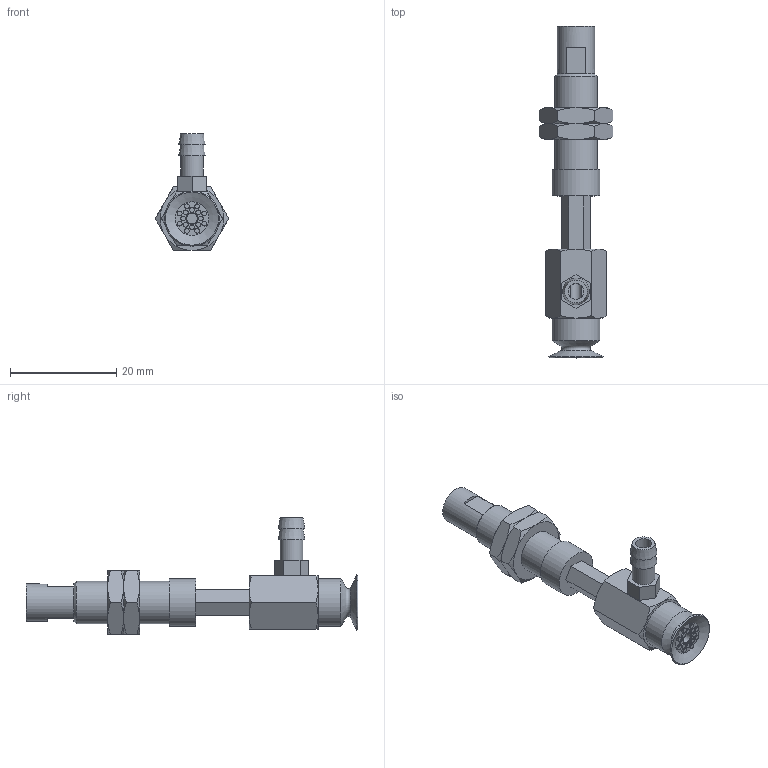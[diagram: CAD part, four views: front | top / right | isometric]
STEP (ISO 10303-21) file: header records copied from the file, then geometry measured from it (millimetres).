
FILE_DESCRIPTION(('STEP AP203'),'1');
FILE_NAME('-T.stp','2025-03-13T02:51:23',(' '),(' '),'Spatial InterOp 3D',' ',' ');
FILE_SCHEMA(('CONFIG_CONTROL_DESIGN'));
Length unit declared in the file: millimetre
Products named in the file (7): BNABPAYH-10A-10-※-T; NAPATH-10A-10--M; NAPATH-10A-10--F; Nut-10A-S; CONNECTOR-10A-10-PA; CONNECTOR-10A-3-T-PA; BPAG-10A-※
Assembly tree (7 placements, depth 2):
  BNABPAYH-10A-10-※-T
    NAPATH-10A-10--M
    NAPATH-10A-10--F
    Nut-10A-S  x2
    CONNECTOR-10A-10-PA
    CONNECTOR-10A-3-T-PA
    BPAG-10A-※
Bounding box: 13.86 x 62.5 x 22 mm (x, y, z)
Volume: 3671.7 mm3; surface area: 4686.9 mm2
Topology: 7 solids, 7 shells, 189 faces, 384 edges, 238 vertices
Faces by surface type: plane 91, cone 54, cylinder 34, torus 10
Full cylindrical faces by diameter (mm): 0.9 x16, 2 x2, 3 x1, 4 x2, 4.134 x2, 4.3 x1, 5 x2, 6 x2, 7 x1, 7.188 x2, 8 x1, 9 x2
Entity records: 4566 total; most frequent: CARTESIAN_POINT 994, DIRECTION 686, ORIENTED_EDGE 540, AXIS2_PLACEMENT_3D 296, EDGE_CURVE 270, EDGE_LOOP 264, FACE_OUTER_BOUND 209, VERTEX_POINT 202
